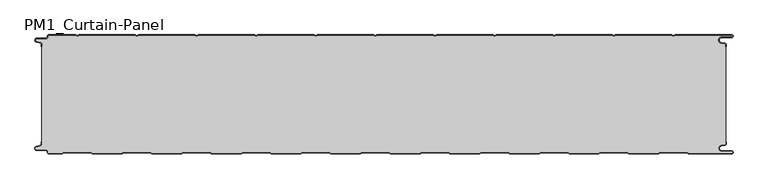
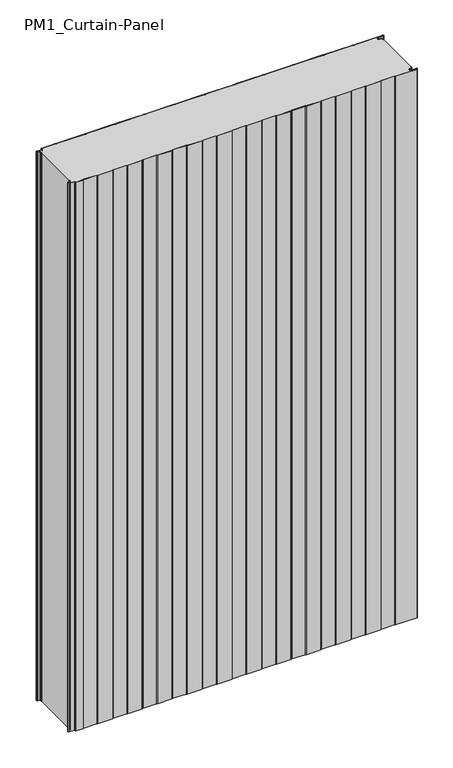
"""IFC4 building model written with IfcOpenShell, lengths in millimetres: plate geometry, PM1_Curtain-Panel : ACH_PM1_Stone-wool-Panel_200M."""

from ifc_helpers import new_model, si_unit, point, frame_2d, origin, origin_with_axes, place, context, project, spatial, polyline, circle_curve, trimmed, segment, composite_curve, outline, extrude, source, transform, mapped, element, save


def pm1_curtain_panel_0f760af8(model_context):
    return source(origin(), model_context, "Body", "SweptSolid", [
        extrude(outline(composite_curve([segment(trimmed(circle_curve(frame_2d((-577.0, -15.878557)), 2.0), [point((-575.0, -15.878557))], [point((-576.5500978, -13.9298169))], True, "CARTESIAN"), True, "CONTINUOUS"), segment(polyline([(-576.5500978, -13.9298169), (-582.7098239, -12.507732)]), True, "CONTINUOUS"), segment(trimmed(circle_curve(frame_2d((-581.9, -9.0)), 3.6), [point((-582.7098239, -12.507732))], [point((-581.9, -5.4))], False, "CARTESIAN"), True, "CONTINUOUS"), segment(polyline([(-581.9, -5.4), (-566.4, -5.4)]), True, "CONTINUOUS"), segment(trimmed(circle_curve(frame_2d((-566.4, -3.4)), 2.0), [point((-566.4, -5.4))], [point((-564.4, -3.4))], True, "CARTESIAN"), True, "CONTINUOUS"), segment(polyline([(-564.4, -3.4), (-564.4, -2.0)]), True, "CONTINUOUS"), segment(trimmed(circle_curve(frame_2d((-562.4, -2.0)), 2.0), [point((-564.4, -2.0))], [point((-562.4, 0.0))], False, "CARTESIAN"), True, "CONTINUOUS"), segment(polyline([(-562.4, 0.0), (-517.0999995, 0.0), (-514.4, -1.5588455), (-511.7000005, 0.0), (-417.0999995, 0.0), (-414.4, -1.5588455), (-411.7000005, 0.0), (-317.0999995, 0.0), (-314.4, -1.5588455), (-311.7000005, 0.0), (-217.0999995, 0.0), (-214.4, -1.5588455), (-211.7000005, 0.0), (-117.0999995, 0.0), (-114.4, -1.5588455), (-111.7000005, 0.0), (-17.0999995, 0.0), (-14.4, -1.5588455), (-11.7000005, 0.0), (82.9000005, 0.0), (85.6, -1.5588455), (88.2999995, 0.0), (182.9000005, 0.0), (185.6, -1.5588455), (188.2999995, 0.0), (282.9000005, 0.0), (285.6, -1.5588455), (288.2999995, 0.0), (382.9000005, 0.0), (385.6, -1.5588455), (388.2999995, 0.0), (482.9000005, 0.0), (485.6, -1.5588455), (488.2999995, 0.0), (583.1, 0.0)]), True, "CONTINUOUS"), segment(trimmed(circle_curve(frame_2d((583.1, -2.5)), 2.5), [point((583.1, 0.0))], [point((583.1, -5.0))], False, "CARTESIAN"), True, "CONTINUOUS"), segment(polyline([(583.1, -5.0), (566.1, -5.0)]), True, "CONTINUOUS"), segment(trimmed(circle_curve(frame_2d((566.1, -9.0)), 4.0), [point((566.1, -5.0))], [point((565.405407, -12.939231))], True, "CARTESIAN"), True, "CONTINUOUS"), segment(polyline([(565.405407, -12.939231), (571.8514855, -14.0758491)]), True, "CONTINUOUS"), segment(trimmed(circle_curve(frame_2d((571.4, -16.6363492)), 2.6), [point((571.8514855, -14.0758491))], [point((574.0, -16.6363492))], False, "CARTESIAN"), True, "CONTINUOUS"), segment(polyline([(574.0, -16.6363492), (574.0, -20.0), (573.2, -20.0), (573.2, -16.6363492)]), True, "CONTINUOUS"), segment(trimmed(circle_curve(frame_2d((571.4, -16.6363492)), 1.8), [point((573.2, -16.6363492))], [point((571.7125669, -14.8636953))], True, "CARTESIAN"), True, "CONTINUOUS"), segment(polyline([(571.7125669, -14.8636953), (565.2664884, -13.7270772)]), True, "CONTINUOUS"), segment(trimmed(circle_curve(frame_2d((566.1, -9.0)), 4.8), [point((565.2664884, -13.7270772))], [point((566.1, -4.2))], False, "CARTESIAN"), True, "CONTINUOUS"), segment(polyline([(566.1, -4.2), (583.1, -4.2)]), True, "CONTINUOUS"), segment(trimmed(circle_curve(frame_2d((583.1, -2.5)), 1.7), [point((583.1, -4.2))], [point((583.1, -0.8))], True, "CARTESIAN"), True, "CONTINUOUS"), segment(polyline([(583.1, -0.8), (488.5143588, -0.8), (485.6, -2.482606), (482.6856412, -0.8), (388.5143588, -0.8), (385.6, -2.482606), (382.6856412, -0.8), (288.5143588, -0.8), (285.6, -2.482606), (282.6856412, -0.8), (188.5143588, -0.8), (185.6, -2.482606), (182.6856412, -0.8), (88.5143588, -0.8), (85.6, -2.482606), (82.6856412, -0.8), (-11.4856412, -0.8), (-14.4, -2.482606), (-17.3143588, -0.8), (-111.4856412, -0.8), (-114.4, -2.482606), (-117.3143588, -0.8), (-211.4856412, -0.8), (-214.4, -2.482606), (-217.3143588, -0.8), (-311.4856412, -0.8), (-314.4, -2.482606), (-317.3143588, -0.8), (-411.4856412, -0.8), (-414.4, -2.482606), (-417.3143588, -0.8), (-511.4856412, -0.8), (-514.4, -2.482606), (-517.3143588, -0.8), (-562.4, -0.8)]), True, "CONTINUOUS"), segment(trimmed(circle_curve(frame_2d((-562.4, -2.0)), 1.2), [point((-562.4, -0.8))], [point((-563.6, -2.0))], True, "CARTESIAN"), True, "CONTINUOUS"), segment(polyline([(-563.6, -2.0), (-563.6, -3.4)]), True, "CONTINUOUS"), segment(trimmed(circle_curve(frame_2d((-566.4, -3.4)), 2.8), [point((-563.6, -3.4))], [point((-566.4, -6.2))], False, "CARTESIAN"), True, "CONTINUOUS"), segment(polyline([(-566.4, -6.2), (-581.9, -6.2)]), True, "CONTINUOUS"), segment(trimmed(circle_curve(frame_2d((-581.9, -9.0)), 2.8), [point((-581.9, -6.2))], [point((-582.529863, -11.7282362))], True, "CARTESIAN"), True, "CONTINUOUS"), segment(polyline([(-582.529863, -11.7282362), (-576.370137, -13.150321)]), True, "CONTINUOUS"), segment(trimmed(circle_curve(frame_2d((-577.0, -15.878557)), 2.8), [point((-576.370137, -13.150321))], [point((-574.2, -15.878557))], False, "CARTESIAN"), True, "CONTINUOUS"), segment(polyline([(-574.2, -15.878557), (-574.2, -20.0), (-575.0, -20.0), (-575.0, -15.878557)]), True, "CONTINUOUS")], self_intersect=False)), origin_with_axes(), (0.0, 0.0, 1.0), 1945.7507136),
        extrude(outline(composite_curve([segment(polyline([(-574.2, -184.121443), (-574.2, -15.8785573)]), True, "CONTINUOUS"), segment(trimmed(circle_curve(frame_2d((-577.0, -15.8785573)), 2.8), [point((-574.2, -15.8785573))], [point((-576.370137, -13.1503212))], True, "CARTESIAN"), True, "CONTINUOUS"), segment(polyline([(-576.370137, -13.1503212), (-582.5298631, -11.7282362)]), True, "CONTINUOUS"), segment(trimmed(circle_curve(frame_2d((-581.9, -9.0)), 2.8), [point((-582.5298631, -11.7282362))], [point((-581.9, -6.2))], False, "CARTESIAN"), True, "CONTINUOUS"), segment(polyline([(-581.9, -6.2), (-566.4000001, -6.2)]), True, "CONTINUOUS"), segment(trimmed(circle_curve(frame_2d((-566.4000001, -3.4)), 2.8), [point((-566.4000001, -6.2))], [point((-563.6000001, -3.4))], True, "CARTESIAN"), True, "CONTINUOUS"), segment(polyline([(-563.6000001, -3.4), (-563.6000001, -2.0)]), True, "CONTINUOUS"), segment(trimmed(circle_curve(frame_2d((-562.4000001, -2.0)), 1.2), [point((-563.6000001, -2.0))], [point((-562.4000001, -0.8))], False, "CARTESIAN"), True, "CONTINUOUS"), segment(polyline([(-562.4000001, -0.8), (-517.3143589, -0.8), (-514.4000001, -2.482606), (-511.4856412, -0.8), (-417.3143589, -0.8), (-414.4000001, -2.482606), (-411.4856412, -0.8), (-317.3143589, -0.8), (-314.4000001, -2.482606), (-311.4856412, -0.8), (-217.3143589, -0.8), (-214.4000001, -2.482606), (-211.4856412, -0.8), (-117.3143589, -0.8), (-114.4000001, -2.482606), (-111.4856412, -0.8), (-17.3143589, -0.8), (-14.4000001, -2.482606), (-11.4856412, -0.8), (82.6856411, -0.8), (85.5999999, -2.482606), (88.5143588, -0.8), (182.6856411, -0.8), (185.5999999, -2.482606), (188.5143588, -0.8), (282.6856411, -0.8), (285.5999999, -2.482606), (288.5143588, -0.8), (382.6856411, -0.8), (385.5999999, -2.482606), (388.5143588, -0.8), (482.6856411, -0.8), (485.6, -2.482606), (488.5143588, -0.8), (583.1, -0.8)]), True, "CONTINUOUS"), segment(trimmed(circle_curve(frame_2d((583.1, -2.5)), 1.7), [point((583.1, -0.8))], [point((583.1, -4.2))], False, "CARTESIAN"), True, "CONTINUOUS"), segment(polyline([(583.1, -4.2), (566.1, -4.2)]), True, "CONTINUOUS"), segment(trimmed(circle_curve(frame_2d((566.1, -9.0)), 4.8), [point((566.1, -4.2))], [point((565.2664883, -13.7270771))], True, "CARTESIAN"), True, "CONTINUOUS"), segment(polyline([(565.2664883, -13.7270771), (571.7125668, -14.8636953)]), True, "CONTINUOUS"), segment(trimmed(circle_curve(frame_2d((571.4, -16.6363492)), 1.8), [point((571.7125668, -14.8636953))], [point((573.2, -16.6363492))], False, "CARTESIAN"), True, "CONTINUOUS"), segment(polyline([(573.2, -16.6363492), (573.2, -183.363652)]), True, "CONTINUOUS"), segment(trimmed(circle_curve(frame_2d((571.4, -183.363652)), 1.8), [point((573.2, -183.363652))], [point((571.7125666, -185.1363059))], False, "CARTESIAN"), True, "CONTINUOUS"), segment(polyline([(571.7125666, -185.1363059), (565.266489, -186.272923)]), True, "CONTINUOUS"), segment(trimmed(circle_curve(frame_2d((566.1, -191.0000002)), 4.7999999), [point((565.266489, -186.272923))], [point((566.1, -195.8000001))], True, "CARTESIAN"), True, "CONTINUOUS"), segment(polyline([(566.1, -195.8000001), (583.1, -195.8000001)]), True, "CONTINUOUS"), segment(trimmed(circle_curve(frame_2d((583.1, -197.5)), 1.7), [point((583.1, -195.8000001))], [point((583.1, -199.2))], False, "CARTESIAN"), True, "CONTINUOUS"), segment(polyline([(583.1, -199.2), (510.8105122, -199.2), (508.2124346, -197.7), (462.9837184, -197.7), (460.3856408, -199.2), (410.8105122, -199.2), (408.2124346, -197.7), (362.9837184, -197.7), (360.3856408, -199.2), (310.8105122, -199.2), (308.2124346, -197.7), (262.9837184, -197.7), (260.3856408, -199.2), (210.8105122, -199.2), (208.2124346, -197.7), (162.9837184, -197.7), (160.3856408, -199.2), (110.8105122, -199.2), (108.2124346, -197.7), (62.9837184, -197.7), (60.3856408, -199.2), (10.8105122, -199.2), (8.2124346, -197.7), (-37.0162816, -197.7), (-39.6143592, -199.2), (-89.1894878, -199.2), (-91.7875654, -197.7), (-137.0162816, -197.7), (-139.6143592, -199.2), (-189.1894878, -199.2), (-191.7875654, -197.7), (-237.0162816, -197.7), (-239.6143592, -199.2), (-289.1894878, -199.2), (-291.7875654, -197.7), (-337.0162816, -197.7), (-339.6143592, -199.2), (-389.1894878, -199.2), (-391.7875654, -197.7), (-437.0162816, -197.7), (-439.6143592, -199.2), (-489.1894878, -199.2), (-491.7875654, -197.7), (-537.0162816, -197.7), (-539.6143592, -199.2), (-562.4, -199.2)]), True, "CONTINUOUS"), segment(trimmed(circle_curve(frame_2d((-562.4, -198.0)), 1.2), [point((-562.4, -199.2))], [point((-563.6, -198.0))], False, "CARTESIAN"), True, "CONTINUOUS"), segment(polyline([(-563.6, -198.0), (-563.6, -196.5999998)]), True, "CONTINUOUS"), segment(trimmed(circle_curve(frame_2d((-566.4, -196.5999998)), 2.8), [point((-563.6, -196.5999998))], [point((-566.4, -193.7999998))], True, "CARTESIAN"), True, "CONTINUOUS"), segment(polyline([(-566.4, -193.7999998), (-581.9, -193.7999998)]), True, "CONTINUOUS"), segment(trimmed(circle_curve(frame_2d((-581.9, -191.0)), 2.7999998), [point((-581.9, -193.7999998))], [point((-582.529863, -188.271764))], False, "CARTESIAN"), True, "CONTINUOUS"), segment(polyline([(-582.529863, -188.271764), (-576.370137, -186.8496792)]), True, "CONTINUOUS"), segment(trimmed(circle_curve(frame_2d((-577.0, -184.121443)), 2.8), [point((-576.370137, -186.8496792))], [point((-574.2, -184.121443))], True, "CARTESIAN"), True, "CONTINUOUS")], self_intersect=False)), origin_with_axes(), (0.0, 0.0, 1.0), 1945.7507136),
        extrude(outline(composite_curve([segment(trimmed(circle_curve(frame_2d((-562.4, -198.0)), 2.0), [point((-562.4, -200.0))], [point((-564.4, -198.0))], False, "CARTESIAN"), True, "CONTINUOUS"), segment(polyline([(-564.4, -198.0), (-564.4, -196.6)]), True, "CONTINUOUS"), segment(trimmed(circle_curve(frame_2d((-566.4, -196.6)), 2.0), [point((-564.4, -196.6))], [point((-566.4, -194.6))], True, "CARTESIAN"), True, "CONTINUOUS"), segment(polyline([(-566.4, -194.6), (-581.9, -194.6)]), True, "CONTINUOUS"), segment(trimmed(circle_curve(frame_2d((-581.9, -191.0)), 3.6), [point((-581.9, -194.6))], [point((-582.7098239, -187.4922678))], False, "CARTESIAN"), True, "CONTINUOUS"), segment(polyline([(-582.7098239, -187.4922678), (-576.5500979, -186.070183)]), True, "CONTINUOUS"), segment(trimmed(circle_curve(frame_2d((-577.0, -184.121443)), 2.0), [point((-576.5500979, -186.070183))], [point((-575.0, -184.121443))], True, "CARTESIAN"), True, "CONTINUOUS"), segment(polyline([(-575.0, -184.121443), (-575.0, -180.0), (-574.2, -180.0), (-574.2, -184.121443)]), True, "CONTINUOUS"), segment(trimmed(circle_curve(frame_2d((-577.0, -184.121443)), 2.8), [point((-574.2, -184.121443))], [point((-576.370137, -186.8496792))], False, "CARTESIAN"), True, "CONTINUOUS"), segment(polyline([(-576.370137, -186.8496792), (-582.529863, -188.271764)]), True, "CONTINUOUS"), segment(trimmed(circle_curve(frame_2d((-581.9, -191.0)), 2.8), [point((-582.529863, -188.271764))], [point((-581.9, -193.8))], True, "CARTESIAN"), True, "CONTINUOUS"), segment(polyline([(-581.9, -193.8), (-566.4, -193.8)]), True, "CONTINUOUS"), segment(trimmed(circle_curve(frame_2d((-566.4, -196.6)), 2.8), [point((-566.4, -193.8))], [point((-563.6, -196.6))], False, "CARTESIAN"), True, "CONTINUOUS"), segment(polyline([(-563.6, -196.6), (-563.6, -198.0)]), True, "CONTINUOUS"), segment(trimmed(circle_curve(frame_2d((-562.4, -198.0)), 1.2), [point((-563.6, -198.0))], [point((-562.4, -199.2))], True, "CARTESIAN"), True, "CONTINUOUS"), segment(polyline([(-562.4, -199.2), (-539.6143592, -199.2), (-537.0162816, -197.7), (-491.7875654, -197.7), (-489.1894878, -199.2), (-439.6143592, -199.2), (-437.0162816, -197.7), (-391.7875654, -197.7), (-389.1894878, -199.2), (-339.6143592, -199.2), (-337.0162816, -197.7), (-291.7875654, -197.7), (-289.1894878, -199.2), (-239.6143592, -199.2), (-237.0162816, -197.7), (-191.7875654, -197.7), (-189.1894878, -199.2), (-139.6143592, -199.2), (-137.0162816, -197.7), (-91.7875654, -197.7), (-89.1894878, -199.2), (-39.6143592, -199.2), (-37.0162816, -197.7), (8.2124346, -197.7), (10.8105122, -199.2), (60.3856408, -199.2), (62.9837184, -197.7), (108.2124346, -197.7), (110.8105122, -199.2), (160.3856408, -199.2), (162.9837184, -197.7), (208.2124346, -197.7), (210.8105122, -199.2), (260.3856408, -199.2), (262.9837184, -197.7), (308.2124346, -197.7), (310.8105122, -199.2), (360.3856408, -199.2), (362.9837184, -197.7), (408.2124346, -197.7), (410.8105122, -199.2), (460.3856408, -199.2), (462.9837184, -197.7), (508.2124346, -197.7), (510.8105122, -199.2), (583.1, -199.2)]), True, "CONTINUOUS"), segment(trimmed(circle_curve(frame_2d((583.1, -197.5)), 1.7), [point((583.1, -199.2))], [point((583.1, -195.8))], True, "CARTESIAN"), True, "CONTINUOUS"), segment(polyline([(583.1, -195.8), (566.1, -195.8)]), True, "CONTINUOUS"), segment(trimmed(circle_curve(frame_2d((566.1, -191.0)), 4.8), [point((566.1, -195.8))], [point((565.266489, -186.2729227))], False, "CARTESIAN"), True, "CONTINUOUS"), segment(polyline([(565.266489, -186.2729227), (571.7125666, -185.1363058)]), True, "CONTINUOUS"), segment(trimmed(circle_curve(frame_2d((571.4, -183.363652)), 1.8), [point((571.7125666, -185.1363058))], [point((573.2, -183.363652))], True, "CARTESIAN"), True, "CONTINUOUS"), segment(polyline([(573.2, -183.363652), (573.2, -180.0), (574.0, -180.0), (574.0, -183.363652)]), True, "CONTINUOUS"), segment(trimmed(circle_curve(frame_2d((571.4, -183.363652)), 2.6), [point((574.0, -183.363652))], [point((571.8514851, -185.9241522))], False, "CARTESIAN"), True, "CONTINUOUS"), segment(polyline([(571.8514851, -185.9241522), (565.4054075, -187.0607691)]), True, "CONTINUOUS"), segment(trimmed(circle_curve(frame_2d((566.1, -191.0)), 4.0), [point((565.4054075, -187.0607691))], [point((566.1, -195.0))], True, "CARTESIAN"), True, "CONTINUOUS"), segment(polyline([(566.1, -195.0), (583.1, -195.0)]), True, "CONTINUOUS"), segment(trimmed(circle_curve(frame_2d((583.1, -197.5)), 2.5), [point((583.1, -195.0))], [point((583.1, -200.0))], False, "CARTESIAN"), True, "CONTINUOUS"), segment(polyline([(583.1, -200.0), (510.5961529, -200.0), (507.9980753, -198.5), (463.1980777, -198.5), (460.6000001, -200.0), (410.5961529, -200.0), (407.9980753, -198.5), (363.1980777, -198.5), (360.6000001, -200.0), (310.5961529, -200.0), (307.9980753, -198.5), (263.1980777, -198.5), (260.6000001, -200.0), (210.5961529, -200.0), (207.9980753, -198.5), (163.1980777, -198.5), (160.6000001, -200.0), (110.5961529, -200.0), (107.9980753, -198.5), (63.1980777, -198.5), (60.6000001, -200.0), (10.5961529, -200.0), (7.9980753, -198.5), (-36.8019223, -198.5), (-39.3999999, -200.0), (-89.4038471, -200.0), (-92.0019247, -198.5), (-136.8019223, -198.5), (-139.3999999, -200.0), (-189.4038471, -200.0), (-192.0019247, -198.5), (-236.8019223, -198.5), (-239.3999999, -200.0), (-289.4038471, -200.0), (-292.0019247, -198.5), (-336.8019223, -198.5), (-339.3999999, -200.0), (-389.4038471, -200.0), (-392.0019247, -198.5), (-436.8019223, -198.5), (-439.3999999, -200.0), (-489.4038471, -200.0), (-492.0019247, -198.5), (-536.8019223, -198.5), (-539.3999999, -200.0), (-562.4, -200.0)]), True, "CONTINUOUS")], self_intersect=False)), origin_with_axes(), (0.0, 0.0, 1.0), 1945.7507136),
    ])


if __name__ == "__main__":
    model = new_model("IFC4")
    model_context = context("Model", 3, world=origin())
    ifc_project = project(units=[si_unit("LENGTHUNIT", "METRE", prefix="MILLI")], contexts=[model_context])
    site = spatial("IfcSite", under=ifc_project)
    building = spatial("IfcBuilding", under=site)
    placement = place(None, origin())
    pm1_curtain_panel_shape = pm1_curtain_panel_0f760af8(model_context)
    element("IfcPlate", 1, ObjectType="PM1_Curtain-Panel : ACH_PM1_Stone-wool-Panel_200M", at=placement, inside=building, context=model_context, shape_type="MappedRepresentation", body=[
        mapped(pm1_curtain_panel_shape, transform((0.0, 0.0, 0.0), x_axis=(1.0, 0.0, 0.0), y_axis=(0.0, 1.0, 0.0), z_axis=(0.0, 0.0, 1.0))),
    ])
    save(model, "model.ifc")
